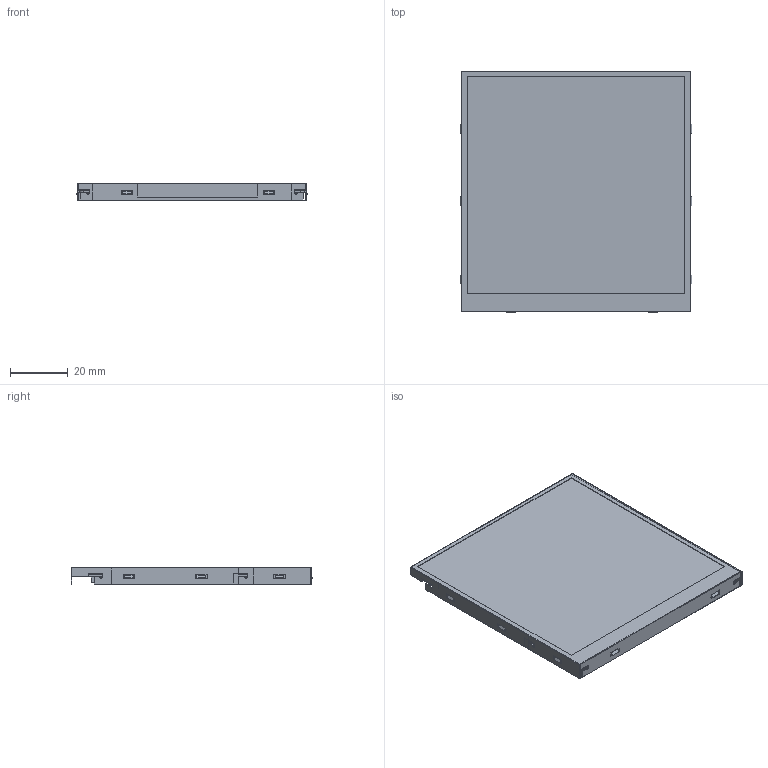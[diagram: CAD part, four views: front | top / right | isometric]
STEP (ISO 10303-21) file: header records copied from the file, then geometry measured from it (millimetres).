
FILE_DESCRIPTION((''),'2;1');
FILE_NAME('41-INCELL_ASM','2019-12-12T',('Administrator'),(''),'PRO/ENGINEER BY PARAMETRIC TECHNOLOGY CORPORATION, 2011310','PRO/ENGINEER BY PARAMETRIC TECHNOLOGY CORPORATION, 2011310','');
FILE_SCHEMA(('CONFIG_CONTROL_DESIGN','SHAPE_APPEARANCE_LAYERS_GROUPS'));
Length unit declared in the file: millimetre
Products named in the file (6): LCD; TK-01; PM; TK-02; PCBA-01; 41-INCELL_ASM
Assembly tree (5 placements, depth 2):
  41-INCELL_ASM
    LCD
    TK-01
    PM
    TK-02
    PCBA-01
Bounding box: 79.88 x 83.2 x 5.95 mm (x, y, z)
Volume: 22011 mm3; surface area: 48650.8 mm2
Topology: 5 solids, 5 shells, 245 faces, 3124 edges, 4017 vertices
Faces by surface type: plane 226, cylinder 19
Entity records: 29899 total; most frequent: DIRECTION 5036, CARTESIAN_POINT 3844, PRESENTATION_STYLE_ASSIGNMENT 2760, STYLED_ITEM 2760, CURVE_STYLE 2751, TRIMMED_CURVE 2450, VECTOR 1764, LINE 1764
